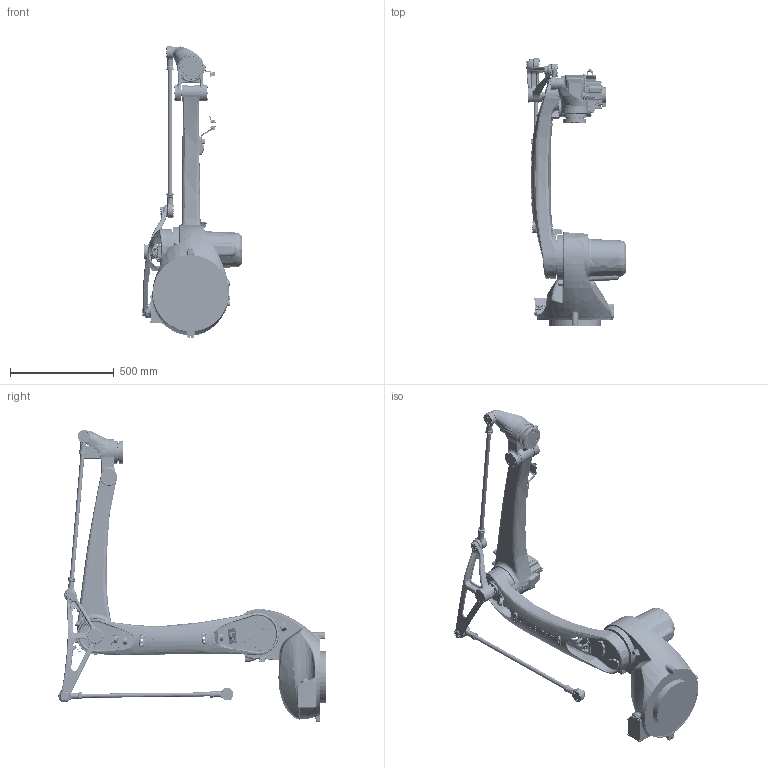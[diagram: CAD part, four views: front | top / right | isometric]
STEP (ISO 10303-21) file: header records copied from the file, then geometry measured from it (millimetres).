
FILE_DESCRIPTION (( 'STEP AP214' ), '1' );
FILE_NAME ('CRP-RP18-25数模（简化）.STEP', '2022-08-24T07:19:13', ( '' ), ( '' ), 'SwSTEP 2.0', 'SolidWorks 2016', '' );
FILE_SCHEMA (( 'AUTOMOTIVE_DESIGN' ));
Length unit declared in the file: millimetre
Products named in the file (10): RP180702 小臂拉杆组件(轴承); CR18A0001 菁釱-潠趙 2022.1.3; RP180400 三角臂组件; PR180500 小臂组件（简化）; CRP-RP18-25数模（简化）; R180002 殈窒-潠趙 2022.8.3; RP180003 湮旋-潠趙 2022.8.3; RP180202 湮旋嶺裝盓釱1; RP180600勂窒郪璃; RP180701 大臂拉杆组件(轴承)
Assembly tree (9 placements, depth 2):
  CRP-RP18-25数模（简化）
    CR18A0001 菁釱-潠趙 2022.1.3
    R180002 殈窒-潠趙 2022.8.3
    RP180003 湮旋-潠趙 2022.8.3
    PR180500 小臂组件（简化）
    RP180600勂窒郪璃
    RP180400 三角臂组件
    RP180702 小臂拉杆组件(轴承)
    RP180202 湮旋嶺裝盓釱1
    RP180701 大臂拉杆组件(轴承)
Bounding box: 484.41 x 1291.16 x 1409.28 mm (x, y, z)
Volume: 38788815.4 mm3; surface area: 2839740.6 mm2
Topology: 2 solids, 312 shells, 6388 faces, 17728 edges, 11352 vertices
Faces by surface type: cylinder 1853, plane 1817, bspline 1495, torus 698, cone 441, sphere 84
Entity records: 765223 total; most frequent: CARTESIAN_POINT 501175, ORIENTED_EDGE 41991, DIRECTION 40466, EDGE_CURVE 23091, AXIS2_PLACEMENT_3D 15947, VERTEX_POINT 14788, EDGE_LOOP 9605, CIRCLE 9259
